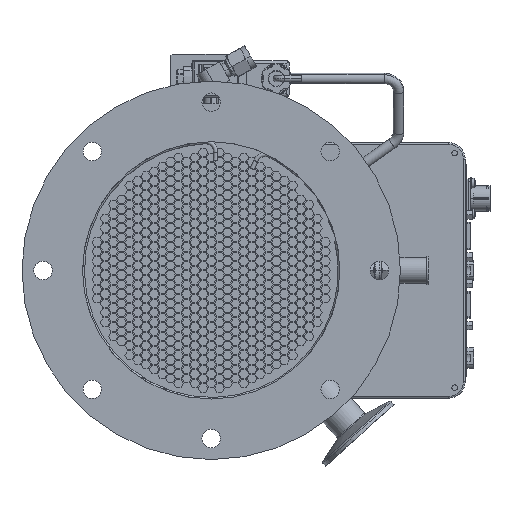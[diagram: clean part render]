
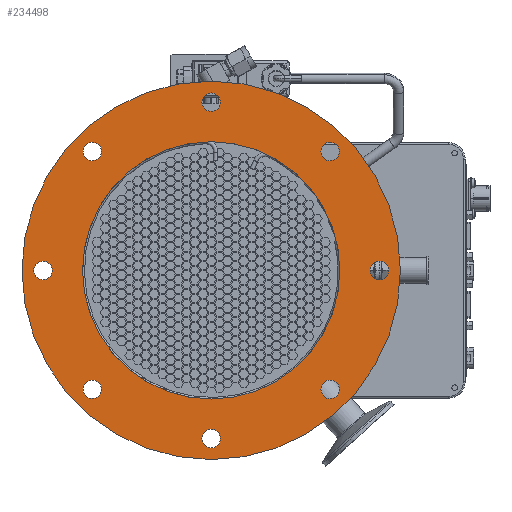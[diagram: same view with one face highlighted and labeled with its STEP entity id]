
A CAD part, left-side view. The second image highlights one B-rep face of the part: STEP entity #234498.
In plain terms, the highlighted planar face has unit normal (-1, 0, 0).
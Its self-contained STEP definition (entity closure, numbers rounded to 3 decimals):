
#65076=CARTESIAN_POINT('',(-175.44,0.,0.));
#65077=DIRECTION('',(-1.,0.,0.));
#65078=DIRECTION('',(0.,0.,-1.));
#65079=AXIS2_PLACEMENT_3D('',#65076,#65077,#65078);
#65081=CARTESIAN_POINT('',(-175.44,0.,0.));
#65082=DIRECTION('',(1.,0.,0.));
#65083=DIRECTION('',(0.,0.,-1.));
#65084=AXIS2_PLACEMENT_3D('',#65081,#65082,#65083);
#65086=CARTESIAN_POINT('',(-175.44,100.,0.));
#65087=DIRECTION('',(1.,0.,0.));
#65088=DIRECTION('',(0.,0.,-1.));
#65089=AXIS2_PLACEMENT_3D('',#65086,#65087,#65088);
#65091=CARTESIAN_POINT('',(-175.44,100.,0.));
#65092=DIRECTION('',(1.,0.,0.));
#65093=DIRECTION('',(0.,0.,1.));
#65094=AXIS2_PLACEMENT_3D('',#65091,#65092,#65093);
#65096=CARTESIAN_POINT('',(-175.44,70.711,-70.711));
#65097=DIRECTION('',(1.,0.,0.));
#65098=DIRECTION('',(0.,0.,-1.));
#65099=AXIS2_PLACEMENT_3D('',#65096,#65097,#65098);
#65101=CARTESIAN_POINT('',(-175.44,70.711,-70.711));
#65102=DIRECTION('',(1.,0.,0.));
#65103=DIRECTION('',(0.,0.,1.));
#65104=AXIS2_PLACEMENT_3D('',#65101,#65102,#65103);
#65106=CARTESIAN_POINT('',(-175.44,0.,-100.));
#65107=DIRECTION('',(1.,0.,0.));
#65108=DIRECTION('',(0.,0.,-1.));
#65109=AXIS2_PLACEMENT_3D('',#65106,#65107,#65108);
#65111=CARTESIAN_POINT('',(-175.44,0.,-100.));
#65112=DIRECTION('',(1.,0.,0.));
#65113=DIRECTION('',(0.,0.,1.));
#65114=AXIS2_PLACEMENT_3D('',#65111,#65112,#65113);
#65116=CARTESIAN_POINT('',(-175.44,-70.711,-70.711));
#65117=DIRECTION('',(1.,0.,0.));
#65118=DIRECTION('',(0.,0.,-1.));
#65119=AXIS2_PLACEMENT_3D('',#65116,#65117,#65118);
#65121=CARTESIAN_POINT('',(-175.44,-70.711,-70.711));
#65122=DIRECTION('',(1.,0.,0.));
#65123=DIRECTION('',(0.,0.,1.));
#65124=AXIS2_PLACEMENT_3D('',#65121,#65122,#65123);
#65126=CARTESIAN_POINT('',(-175.44,-100.,0.));
#65127=DIRECTION('',(1.,0.,0.));
#65128=DIRECTION('',(0.,0.,-1.));
#65129=AXIS2_PLACEMENT_3D('',#65126,#65127,#65128);
#65131=CARTESIAN_POINT('',(-175.44,-100.,0.));
#65132=DIRECTION('',(1.,0.,0.));
#65133=DIRECTION('',(0.,0.,1.));
#65134=AXIS2_PLACEMENT_3D('',#65131,#65132,#65133);
#65136=CARTESIAN_POINT('',(-175.44,-70.711,70.711));
#65137=DIRECTION('',(1.,0.,0.));
#65138=DIRECTION('',(0.,0.,-1.));
#65139=AXIS2_PLACEMENT_3D('',#65136,#65137,#65138);
#65141=CARTESIAN_POINT('',(-175.44,-70.711,70.711));
#65142=DIRECTION('',(1.,0.,0.));
#65143=DIRECTION('',(0.,0.,1.));
#65144=AXIS2_PLACEMENT_3D('',#65141,#65142,#65143);
#65146=CARTESIAN_POINT('',(-175.44,0.,100.));
#65147=DIRECTION('',(1.,0.,0.));
#65148=DIRECTION('',(0.,0.,-1.));
#65149=AXIS2_PLACEMENT_3D('',#65146,#65147,#65148);
#65151=CARTESIAN_POINT('',(-175.44,0.,100.));
#65152=DIRECTION('',(1.,0.,0.));
#65153=DIRECTION('',(0.,0.,1.));
#65154=AXIS2_PLACEMENT_3D('',#65151,#65152,#65153);
#65156=CARTESIAN_POINT('',(-175.44,70.711,70.711));
#65157=DIRECTION('',(1.,0.,0.));
#65158=DIRECTION('',(0.,0.,-1.));
#65159=AXIS2_PLACEMENT_3D('',#65156,#65157,#65158);
#65161=CARTESIAN_POINT('',(-175.44,70.711,70.711));
#65162=DIRECTION('',(1.,0.,0.));
#65163=DIRECTION('',(0.,0.,1.));
#65164=AXIS2_PLACEMENT_3D('',#65161,#65162,#65163);
#65171=CARTESIAN_POINT('',(-175.44,0.,0.));
#65172=DIRECTION('',(1.,0.,0.));
#65173=DIRECTION('',(0.,0.,-1.));
#65174=AXIS2_PLACEMENT_3D('',#65171,#65172,#65173);
#107382=CARTESIAN_POINT('',(-175.44,0.,0.));
#107383=DIRECTION('',(-1.,0.,0.));
#107384=DIRECTION('',(0.,0.,-1.));
#107385=AXIS2_PLACEMENT_3D('',#107382,#107383,#107384);
#137662=CARTESIAN_POINT('',(-175.44,0.,-112.5));
#137664=VERTEX_POINT('',#137662);
#137674=CARTESIAN_POINT('',(-175.44,0.,112.5));
#137676=VERTEX_POINT('',#137674);
#137677=CARTESIAN_POINT('',(-175.44,0.,76.5));
#137679=VERTEX_POINT('',#137677);
#137689=CARTESIAN_POINT('',(-175.44,0.,-76.5));
#137690=VERTEX_POINT('',#137689);
#137695=CARTESIAN_POINT('',(-175.44,100.,-5.5));
#137696=CARTESIAN_POINT('',(-175.44,100.,5.5));
#137697=VERTEX_POINT('',#137695);
#137698=VERTEX_POINT('',#137696);
#137703=CARTESIAN_POINT('',(-175.44,70.711,-76.211));
#137704=CARTESIAN_POINT('',(-175.44,70.711,-65.211));
#137705=VERTEX_POINT('',#137703);
#137706=VERTEX_POINT('',#137704);
#137711=CARTESIAN_POINT('',(-175.44,0.,-105.5));
#137712=CARTESIAN_POINT('',(-175.44,0.,-94.5));
#137713=VERTEX_POINT('',#137711);
#137714=VERTEX_POINT('',#137712);
#137719=CARTESIAN_POINT('',(-175.44,-70.711,-76.211));
#137720=CARTESIAN_POINT('',(-175.44,-70.711,-65.211));
#137721=VERTEX_POINT('',#137719);
#137722=VERTEX_POINT('',#137720);
#137727=CARTESIAN_POINT('',(-175.44,-100.,-5.5));
#137728=CARTESIAN_POINT('',(-175.44,-100.,5.5));
#137729=VERTEX_POINT('',#137727);
#137730=VERTEX_POINT('',#137728);
#137735=CARTESIAN_POINT('',(-175.44,-70.711,65.211));
#137736=CARTESIAN_POINT('',(-175.44,-70.711,76.211));
#137737=VERTEX_POINT('',#137735);
#137738=VERTEX_POINT('',#137736);
#137743=CARTESIAN_POINT('',(-175.44,0.,94.5));
#137744=CARTESIAN_POINT('',(-175.44,0.,105.5));
#137745=VERTEX_POINT('',#137743);
#137746=VERTEX_POINT('',#137744);
#137751=CARTESIAN_POINT('',(-175.44,70.711,65.211));
#137752=CARTESIAN_POINT('',(-175.44,70.711,76.211));
#137753=VERTEX_POINT('',#137751);
#137754=VERTEX_POINT('',#137752);
#234435=CARTESIAN_POINT('',(-175.44,0.,0.));
#234436=DIRECTION('',(1.,0.,0.));
#234437=DIRECTION('',(0.,0.,1.));
#234438=AXIS2_PLACEMENT_3D('',#234435,#234436,#234437);
#234439=PLANE('',#234438);
#234440=ORIENTED_EDGE('',*,*,#234428,.F.);
#234441=ORIENTED_EDGE('',*,*,#234417,.T.);
#234442=EDGE_LOOP('',(#234440,#234441));
#234443=FACE_OUTER_BOUND('',#234442,.F.);
#234445=ORIENTED_EDGE('',*,*,#234444,.F.);
#234447=ORIENTED_EDGE('',*,*,#234446,.T.);
#234448=EDGE_LOOP('',(#234445,#234447));
#234449=FACE_BOUND('',#234448,.F.);
#234451=ORIENTED_EDGE('',*,*,#234450,.F.);
#234453=ORIENTED_EDGE('',*,*,#234452,.F.);
#234454=EDGE_LOOP('',(#234451,#234453));
#234455=FACE_BOUND('',#234454,.F.);
#234457=ORIENTED_EDGE('',*,*,#234456,.F.);
#234459=ORIENTED_EDGE('',*,*,#234458,.F.);
#234460=EDGE_LOOP('',(#234457,#234459));
#234461=FACE_BOUND('',#234460,.F.);
#234463=ORIENTED_EDGE('',*,*,#234462,.F.);
#234465=ORIENTED_EDGE('',*,*,#234464,.F.);
#234466=EDGE_LOOP('',(#234463,#234465));
#234467=FACE_BOUND('',#234466,.F.);
#234469=ORIENTED_EDGE('',*,*,#234468,.F.);
#234471=ORIENTED_EDGE('',*,*,#234470,.F.);
#234472=EDGE_LOOP('',(#234469,#234471));
#234473=FACE_BOUND('',#234472,.F.);
#234475=ORIENTED_EDGE('',*,*,#234474,.F.);
#234477=ORIENTED_EDGE('',*,*,#234476,.F.);
#234478=EDGE_LOOP('',(#234475,#234477));
#234479=FACE_BOUND('',#234478,.F.);
#234481=ORIENTED_EDGE('',*,*,#234480,.F.);
#234483=ORIENTED_EDGE('',*,*,#234482,.F.);
#234484=EDGE_LOOP('',(#234481,#234483));
#234485=FACE_BOUND('',#234484,.F.);
#234487=ORIENTED_EDGE('',*,*,#234486,.F.);
#234489=ORIENTED_EDGE('',*,*,#234488,.F.);
#234490=EDGE_LOOP('',(#234487,#234489));
#234491=FACE_BOUND('',#234490,.F.);
#234493=ORIENTED_EDGE('',*,*,#234492,.F.);
#234495=ORIENTED_EDGE('',*,*,#234494,.F.);
#234496=EDGE_LOOP('',(#234493,#234495));
#234497=FACE_BOUND('',#234496,.F.);
#234498=ADVANCED_FACE('',(#234443,#234449,#234455,#234461,#234467,#234473,
#234479,#234485,#234491,#234497),#234439,.F.);
#65080=CIRCLE('',#65079,112.5);
#65085=CIRCLE('',#65084,112.5);
#65090=CIRCLE('',#65089,5.5);
#65095=CIRCLE('',#65094,5.5);
#65100=CIRCLE('',#65099,5.5);
#65105=CIRCLE('',#65104,5.5);
#65110=CIRCLE('',#65109,5.5);
#65115=CIRCLE('',#65114,5.5);
#65120=CIRCLE('',#65119,5.5);
#65125=CIRCLE('',#65124,5.5);
#65130=CIRCLE('',#65129,5.5);
#65135=CIRCLE('',#65134,5.5);
#65140=CIRCLE('',#65139,5.5);
#65145=CIRCLE('',#65144,5.5);
#65150=CIRCLE('',#65149,5.5);
#65155=CIRCLE('',#65154,5.5);
#65160=CIRCLE('',#65159,5.5);
#65165=CIRCLE('',#65164,5.5);
#65175=CIRCLE('',#65174,76.5);
#107386=CIRCLE('',#107385,76.5);
#234417=EDGE_CURVE('',#137664,#137676,#65085,.T.);
#234428=EDGE_CURVE('',#137664,#137676,#65080,.T.);
#234444=EDGE_CURVE('',#137690,#137679,#65175,.T.);
#234446=EDGE_CURVE('',#137690,#137679,#107386,.T.);
#234450=EDGE_CURVE('',#137697,#137698,#65090,.T.);
#234452=EDGE_CURVE('',#137698,#137697,#65095,.T.);
#234456=EDGE_CURVE('',#137705,#137706,#65100,.T.);
#234458=EDGE_CURVE('',#137706,#137705,#65105,.T.);
#234462=EDGE_CURVE('',#137713,#137714,#65110,.T.);
#234464=EDGE_CURVE('',#137714,#137713,#65115,.T.);
#234468=EDGE_CURVE('',#137721,#137722,#65120,.T.);
#234470=EDGE_CURVE('',#137722,#137721,#65125,.T.);
#234474=EDGE_CURVE('',#137729,#137730,#65130,.T.);
#234476=EDGE_CURVE('',#137730,#137729,#65135,.T.);
#234480=EDGE_CURVE('',#137737,#137738,#65140,.T.);
#234482=EDGE_CURVE('',#137738,#137737,#65145,.T.);
#234486=EDGE_CURVE('',#137745,#137746,#65150,.T.);
#234488=EDGE_CURVE('',#137746,#137745,#65155,.T.);
#234492=EDGE_CURVE('',#137753,#137754,#65160,.T.);
#234494=EDGE_CURVE('',#137754,#137753,#65165,.T.);
